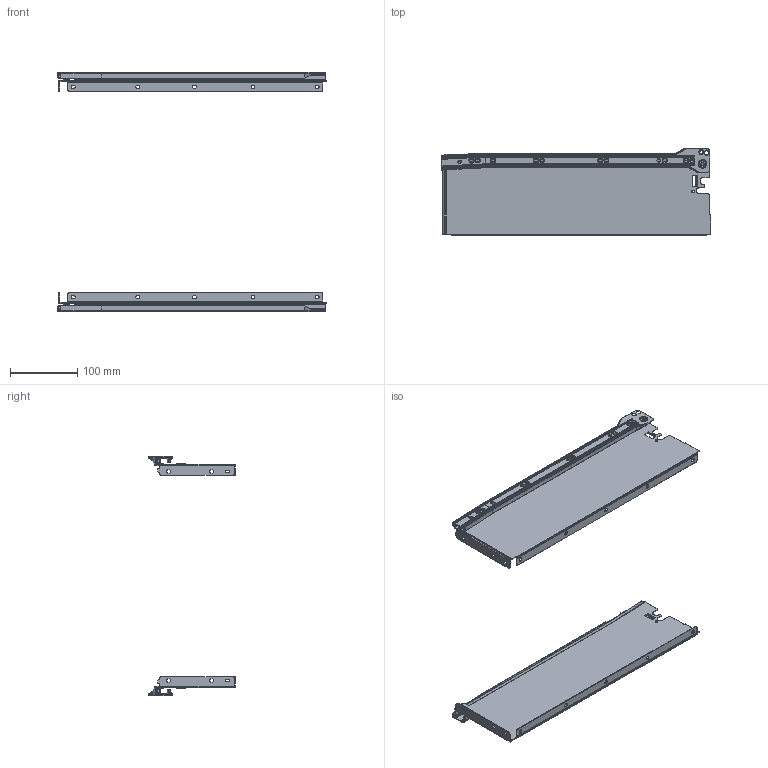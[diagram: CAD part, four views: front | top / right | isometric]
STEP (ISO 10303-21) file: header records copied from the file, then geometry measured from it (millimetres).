
FILE_DESCRIPTION (( 'STEP AP214' ), '1' );
FILE_NAME ('Výška 118 - 400 mm Š + B-xxxxxx a 286652.STEP', '2019-06-19T10:53:35', ( '' ), ( '' ), 'SwSTEP 2.0', 'SolidWorks 2019', '' );
FILE_SCHEMA (( 'AUTOMOTIVE_DESIGN' ));
Length unit declared in the file: millimetre
Products named in the file (5): DS-132CR-400; DS-132-118DR-400_132-86DL-400; Výška 118 - 400 mm Š + B-xxxxxx a 286652; DS-132-118DL-400_132-86DL-400; DS-132CL-400
Assembly tree (4 placements, depth 2):
  Výška 118 - 400 mm Š + B-xxxxxx a 286652
    DS-132-118DL-400_132-86DL-400
    DS-132CR-400
    DS-132CL-400
    DS-132-118DR-400_132-86DL-400
Bounding box: 402.67 x 130.59 x 357 mm (x, y, z)
Volume: 159041.7 mm3; surface area: 295470.7 mm2
Topology: 4 solids, 4 shells, 800 faces, 2100 edges, 1310 vertices
Faces by surface type: plane 418, cylinder 284, cone 52, bspline 30, torus 16
Entity records: 25282 total; most frequent: CARTESIAN_POINT 5329, ORIENTED_EDGE 4184, DIRECTION 4080, EDGE_CURVE 2092, AXIS2_PLACEMENT_3D 1373, LINE 1334, VECTOR 1334, VERTEX_POINT 1310
